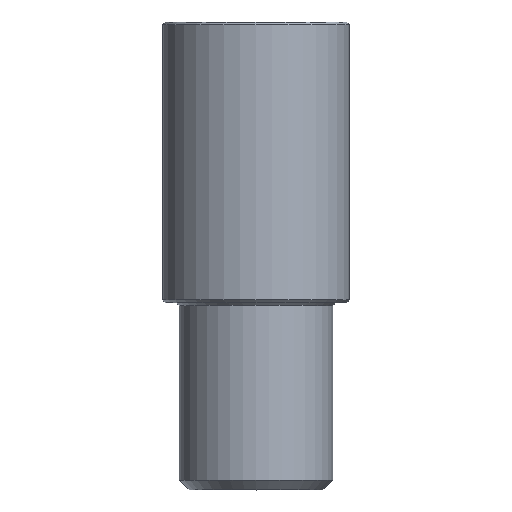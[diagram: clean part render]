
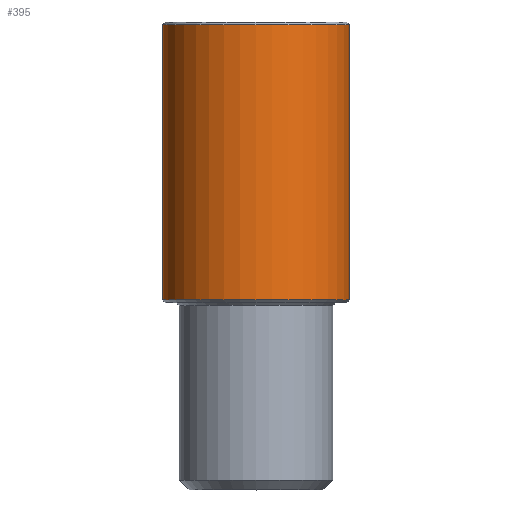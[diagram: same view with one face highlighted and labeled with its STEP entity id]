
A CAD part, top view. The second image highlights one B-rep face of the part: STEP entity #395.
In plain terms, the highlighted cylindrical face has radius 12.7 mm (diameter 25.4 mm), a full revolution.
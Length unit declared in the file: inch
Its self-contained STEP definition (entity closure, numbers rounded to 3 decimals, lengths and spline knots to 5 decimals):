
#29=CYLINDRICAL_SURFACE('',#451,0.5);
#63=FACE_OUTER_BOUND('',#89,.T.);
#89=EDGE_LOOP('',(#328,#329,#330,#331,#332,#333));
#117=LINE('',#698,#141);
#141=VECTOR('',#558,0.5);
#162=CIRCLE('',#449,0.5);
#163=CIRCLE('',#450,0.5);
#164=CIRCLE('',#452,0.5);
#165=CIRCLE('',#453,0.5);
#199=VERTEX_POINT('',#691);
#200=VERTEX_POINT('',#693);
#201=VERTEX_POINT('',#697);
#202=VERTEX_POINT('',#699);
#249=EDGE_CURVE('',#199,#200,#162,.T.);
#250=EDGE_CURVE('',#200,#199,#163,.T.);
#251=EDGE_CURVE('',#200,#201,#117,.T.);
#252=EDGE_CURVE('',#202,#201,#164,.T.);
#253=EDGE_CURVE('',#201,#202,#165,.T.);
#328=ORIENTED_EDGE('',*,*,#249,.F.);
#329=ORIENTED_EDGE('',*,*,#250,.F.);
#330=ORIENTED_EDGE('',*,*,#251,.T.);
#331=ORIENTED_EDGE('',*,*,#252,.F.);
#332=ORIENTED_EDGE('',*,*,#253,.F.);
#333=ORIENTED_EDGE('',*,*,#251,.F.);
#395=ADVANCED_FACE('',(#63),#29,.T.);
#449=AXIS2_PLACEMENT_3D('',#694,#552,#553);
#450=AXIS2_PLACEMENT_3D('',#695,#554,#555);
#451=AXIS2_PLACEMENT_3D('',#696,#556,#557);
#452=AXIS2_PLACEMENT_3D('',#700,#559,#560);
#453=AXIS2_PLACEMENT_3D('',#701,#561,#562);
#552=DIRECTION('center_axis',(0.,-1.,0.));
#553=DIRECTION('ref_axis',(0.,0.,1.));
#554=DIRECTION('center_axis',(0.,-1.,0.));
#555=DIRECTION('ref_axis',(0.,0.,1.));
#556=DIRECTION('center_axis',(0.,-1.,0.));
#557=DIRECTION('ref_axis',(0.,0.,-1.));
#558=DIRECTION('',(0.,1.,0.));
#559=DIRECTION('center_axis',(0.,1.,0.));
#560=DIRECTION('ref_axis',(0.,0.,1.));
#561=DIRECTION('center_axis',(0.,1.,0.));
#562=DIRECTION('ref_axis',(0.,0.,1.));
#691=CARTESIAN_POINT('',(0.,1.015,-0.5));
#693=CARTESIAN_POINT('',(0.,1.015,0.5));
#694=CARTESIAN_POINT('Origin',(0.,1.015,0.));
#695=CARTESIAN_POINT('Origin',(0.,1.015,0.));
#696=CARTESIAN_POINT('Origin',(0.,1.75,0.));
#697=CARTESIAN_POINT('',(0.,2.485,0.5));
#698=CARTESIAN_POINT('',(0.,1.75,0.5));
#699=CARTESIAN_POINT('',(0.,2.485,-0.5));
#700=CARTESIAN_POINT('Origin',(0.,2.485,0.));
#701=CARTESIAN_POINT('Origin',(0.,2.485,0.));
